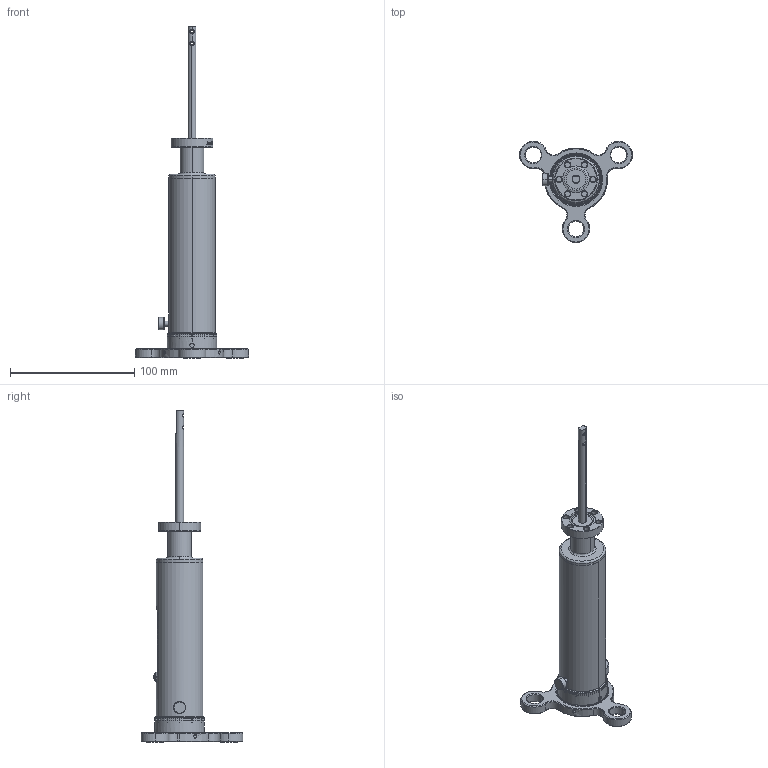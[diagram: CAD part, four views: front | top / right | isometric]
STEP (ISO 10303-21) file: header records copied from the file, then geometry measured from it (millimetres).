
FILE_DESCRIPTION (( 'STEP AP203' ), '1' );
FILE_NAME ('102210-113086.stp', '2019-04-02T15:45:57', ( '' ), ( '' ), 'SwSTEP 2.0', 'SolidWorks 2012', '' );
FILE_SCHEMA (( 'CONFIG_CONTROL_DESIGN' ));
Products named in the file (1): 102210-113086
Bounding box: 90.97 x 81.76 x 267.11 mm (x, y, z)
Volume: 191837.6 mm3; surface area: 32140.7 mm2
Topology: 1 solids, 1 shells, 1540 faces, 4399 edges, 2901 vertices
Faces by surface type: plane 919, cylinder 362, bspline 151, cone 108
Entity records: 80562 total; most frequent: CARTESIAN_POINT 41290, ORIENTED_EDGE 8794, DIRECTION 7533, EDGE_CURVE 4397, VERTEX_POINT 2901, AXIS2_PLACEMENT_3D 2653, LINE 2227, VECTOR 2227
